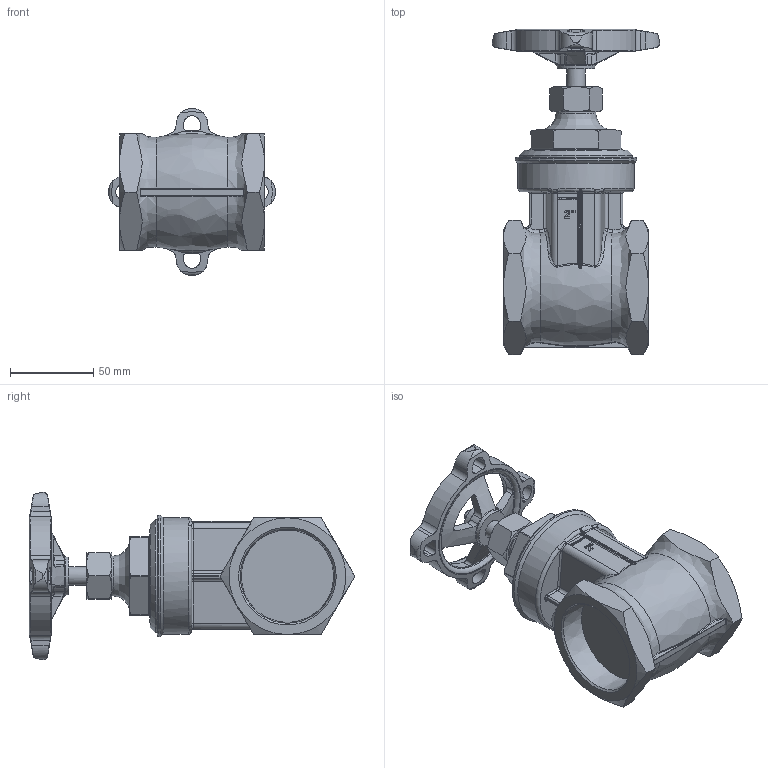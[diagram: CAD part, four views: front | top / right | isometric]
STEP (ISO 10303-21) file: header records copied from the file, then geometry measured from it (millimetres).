
FILE_DESCRIPTION((''),'2;1');
FILE_NAME('P:\Fastrack\53972_CRANE 3D\Gate Valves\Work Space\Handwheel\33X_2in\33X_2in.stp','2011-03-10T12:42:51',('btaylor'),(''),'Autodesk Inventor 2008','Autodesk Inventor 2008','');
FILE_SCHEMA(('AUTOMOTIVE_DESIGN { 1 0 10303 214 1 1 1 1 }'));
Length unit declared in the file: millimetre
Products named in the file (1): 33X_2in
Bounding box: 100.3 x 195.38 x 100.3 mm (x, y, z)
Volume: 483673.9 mm3; surface area: 69222.9 mm2
Topology: 1 solids, 1 shells, 715 faces, 1951 edges, 1254 vertices
Faces by surface type: plane 364, bspline 172, cylinder 111, cone 45, torus 23
Full cylindrical faces by diameter (mm): 6 x2, 11.2 x1, 21 x1, 24 x1, 67.8 x1, 70 x1, 73.2 x1
Entity records: 31077 total; most frequent: CARTESIAN_POINT 14203, ORIENTED_EDGE 3758, DIRECTION 2642, EDGE_CURVE 1879, VERTEX_POINT 1233, VECTOR 980, LINE 980, AXIS2_PLACEMENT_3D 831
